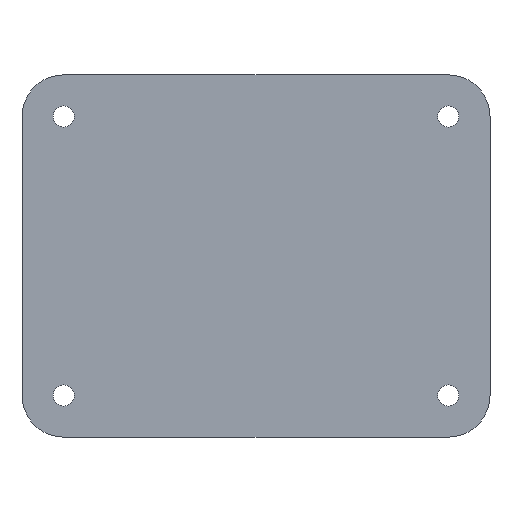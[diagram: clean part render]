
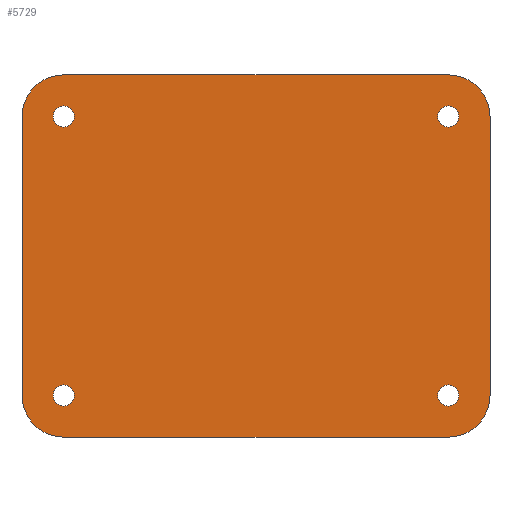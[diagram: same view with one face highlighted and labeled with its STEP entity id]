
A CAD part, front view. The second image highlights one B-rep face of the part: STEP entity #5729.
In plain terms, the highlighted planar face has unit normal (0, -1, 0).
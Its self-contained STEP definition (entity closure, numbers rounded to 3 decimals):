
#94=FACE_BOUND('',#1231,.T.);
#95=FACE_BOUND('',#1232,.T.);
#96=FACE_BOUND('',#1233,.T.);
#97=FACE_BOUND('',#1234,.T.);
#312=PLANE('',#6235);
#498=CIRCLE('',#6149,13.);
#499=CIRCLE('',#6152,13.);
#529=CIRCLE('',#6211,3.3);
#532=CIRCLE('',#6217,3.3);
#535=CIRCLE('',#6223,3.3);
#538=CIRCLE('',#6229,3.3);
#539=CIRCLE('',#6231,13.);
#540=CIRCLE('',#6234,13.);
#885=FACE_OUTER_BOUND('',#1230,.T.);
#1230=EDGE_LOOP('',(#5229,#5230,#5231,#5232,#5233,#5234,#5235,#5236));
#1231=EDGE_LOOP('',(#5237));
#1232=EDGE_LOOP('',(#5238));
#1233=EDGE_LOOP('',(#5239));
#1234=EDGE_LOOP('',(#5240));
#1800=LINE('',#11295,#2199);
#1804=LINE('',#11304,#2203);
#1828=LINE('',#11764,#2227);
#1831=LINE('',#11771,#2230);
#2199=VECTOR('',#7377,10.);
#2203=VECTOR('',#7387,10.);
#2227=VECTOR('',#7575,10.);
#2230=VECTOR('',#7584,10.);
#2732=VERTEX_POINT('',#11292);
#2733=VERTEX_POINT('',#11294);
#2734=VERTEX_POINT('',#11298);
#2735=VERTEX_POINT('',#11302);
#2736=VERTEX_POINT('',#11306);
#2753=VERTEX_POINT('',#11722);
#2756=VERTEX_POINT('',#11733);
#2759=VERTEX_POINT('',#11744);
#2762=VERTEX_POINT('',#11755);
#2763=VERTEX_POINT('',#11759);
#2764=VERTEX_POINT('',#11763);
#2765=VERTEX_POINT('',#11767);
#3524=EDGE_CURVE('',#2733,#2732,#1800,.T.);
#3527=EDGE_CURVE('',#2734,#2732,#498,.T.);
#3529=EDGE_CURVE('',#2734,#2735,#1804,.T.);
#3531=EDGE_CURVE('',#2736,#2735,#499,.T.);
#3579=EDGE_CURVE('',#2753,#2753,#529,.T.);
#3584=EDGE_CURVE('',#2756,#2756,#532,.T.);
#3589=EDGE_CURVE('',#2759,#2759,#535,.T.);
#3594=EDGE_CURVE('',#2762,#2762,#538,.T.);
#3595=EDGE_CURVE('',#2733,#2763,#539,.T.);
#3597=EDGE_CURVE('',#2764,#2763,#1828,.T.);
#3599=EDGE_CURVE('',#2764,#2765,#540,.T.);
#3601=EDGE_CURVE('',#2736,#2765,#1831,.T.);
#5229=ORIENTED_EDGE('',*,*,#3595,.F.);
#5230=ORIENTED_EDGE('',*,*,#3524,.T.);
#5231=ORIENTED_EDGE('',*,*,#3527,.F.);
#5232=ORIENTED_EDGE('',*,*,#3529,.T.);
#5233=ORIENTED_EDGE('',*,*,#3531,.F.);
#5234=ORIENTED_EDGE('',*,*,#3601,.T.);
#5235=ORIENTED_EDGE('',*,*,#3599,.F.);
#5236=ORIENTED_EDGE('',*,*,#3597,.T.);
#5237=ORIENTED_EDGE('',*,*,#3579,.T.);
#5238=ORIENTED_EDGE('',*,*,#3584,.T.);
#5239=ORIENTED_EDGE('',*,*,#3589,.T.);
#5240=ORIENTED_EDGE('',*,*,#3594,.T.);
#5729=ADVANCED_FACE('',(#885,#94,#95,#96,#97),#312,.T.);
#6149=AXIS2_PLACEMENT_3D('',#11300,#7382,#7383);
#6152=AXIS2_PLACEMENT_3D('',#11308,#7391,#7392);
#6211=AXIS2_PLACEMENT_3D('',#11724,#7524,#7525);
#6217=AXIS2_PLACEMENT_3D('',#11735,#7538,#7539);
#6223=AXIS2_PLACEMENT_3D('',#11746,#7552,#7553);
#6229=AXIS2_PLACEMENT_3D('',#11757,#7566,#7567);
#6231=AXIS2_PLACEMENT_3D('',#11760,#7570,#7571);
#6234=AXIS2_PLACEMENT_3D('',#11768,#7579,#7580);
#6235=AXIS2_PLACEMENT_3D('',#11770,#7582,#7583);
#7377=DIRECTION('',(1.,0.,0.));
#7382=DIRECTION('center_axis',(0.,1.,0.));
#7383=DIRECTION('ref_axis',(0.707,0.,-0.707));
#7387=DIRECTION('',(0.,0.,1.));
#7391=DIRECTION('center_axis',(0.,1.,0.));
#7392=DIRECTION('ref_axis',(0.707,0.,0.707));
#7524=DIRECTION('center_axis',(0.,1.,0.));
#7525=DIRECTION('ref_axis',(1.,0.,0.));
#7538=DIRECTION('center_axis',(0.,1.,0.));
#7539=DIRECTION('ref_axis',(1.,0.,0.));
#7552=DIRECTION('center_axis',(0.,1.,0.));
#7553=DIRECTION('ref_axis',(1.,0.,0.));
#7566=DIRECTION('center_axis',(0.,1.,0.));
#7567=DIRECTION('ref_axis',(1.,0.,0.));
#7570=DIRECTION('center_axis',(0.,1.,0.));
#7571=DIRECTION('ref_axis',(-0.707,0.,-0.707));
#7575=DIRECTION('',(0.,0.,-1.));
#7579=DIRECTION('center_axis',(0.,1.,0.));
#7580=DIRECTION('ref_axis',(-0.707,0.,0.707));
#7582=DIRECTION('center_axis',(0.,-1.,0.));
#7583=DIRECTION('ref_axis',(0.,0.,-1.));
#7584=DIRECTION('',(-1.,0.,0.));
#11292=CARTESIAN_POINT('',(91.,0.,-77.));
#11294=CARTESIAN_POINT('',(-29.,0.,-77.));
#11295=CARTESIAN_POINT('',(-42.,0.,-77.));
#11298=CARTESIAN_POINT('',(104.,0.,-64.));
#11300=CARTESIAN_POINT('Origin',(91.,0.,-64.));
#11302=CARTESIAN_POINT('',(104.,0.,23.));
#11304=CARTESIAN_POINT('',(104.,0.,-77.));
#11306=CARTESIAN_POINT('',(91.,0.,36.));
#11308=CARTESIAN_POINT('Origin',(91.,0.,23.));
#11722=CARTESIAN_POINT('',(87.7,0.,23.));
#11724=CARTESIAN_POINT('Origin',(91.,0.,23.));
#11733=CARTESIAN_POINT('',(-32.3,0.,-64.));
#11735=CARTESIAN_POINT('Origin',(-29.,0.,-64.));
#11744=CARTESIAN_POINT('',(87.7,0.,-64.));
#11746=CARTESIAN_POINT('Origin',(91.,0.,-64.));
#11755=CARTESIAN_POINT('',(-32.3,0.,23.));
#11757=CARTESIAN_POINT('Origin',(-29.,0.,23.));
#11759=CARTESIAN_POINT('',(-42.,0.,-64.));
#11760=CARTESIAN_POINT('Origin',(-29.,0.,-64.));
#11763=CARTESIAN_POINT('',(-42.,0.,23.));
#11764=CARTESIAN_POINT('',(-42.,0.,36.));
#11767=CARTESIAN_POINT('',(-29.,0.,36.));
#11768=CARTESIAN_POINT('Origin',(-29.,0.,23.));
#11770=CARTESIAN_POINT('Origin',(31.,0.,-20.5));
#11771=CARTESIAN_POINT('',(104.,0.,36.));
